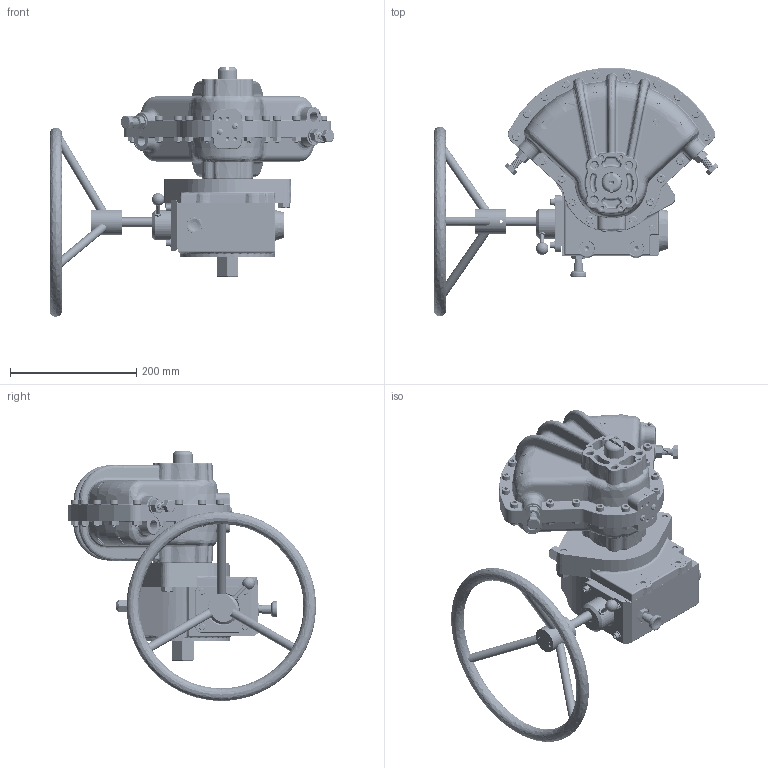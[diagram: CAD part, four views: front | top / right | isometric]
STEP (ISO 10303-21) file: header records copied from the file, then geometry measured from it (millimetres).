
FILE_DESCRIPTION( ( 'Unknown' ), '1' );
FILE_NAME( 'M:/Dallas-Ridec/Archive/30/Assemblies/Main assemblies/DA, Handwheel manual override assembly/D000000224.stp', 'Unknown', ( 'Unknown' ), ( 'Unknown' ), 'PSStep 17.0.49', 'Unknown', ' ' );
FILE_SCHEMA( ( 'AUTOMOTIVE_DESIGN { 1 0 10303 214 1 1 1 1 }' ) );
Length unit declared in the file: millimetre
Products named in the file (89): 191S000000005; 700SIK0000100; 170S240000000; 11SZ120776C00; 22SX007760C00; 6.2799.600; A0158712000A4; DEV0432; DEV0435; LNM12x1.5SS; 62SZ100000010; D0093806040A4; D0043906000A4; D0031906000KU; D0760312000CU; 21S5Z10000000; D0799112035A4; 47S0125004700; ILGD600A17; 164S202700000; D0093312035A4; 7251500210300; D0012506000A4; D0091206020A4; D0000710020ST; 9530300-C; 93635A544; 94150A360; 94150A355; 1; 2; 90116A246; 3; 4; 5; 6; 94205A240; 92015A539; 7; 91292A151
Bounding box: 451.24 x 392.83 x 395.65 mm (x, y, z)
Surface area: 641185.5 mm2 (no closed solid volume)
Topology: 0 solids, 3054 shells, 3054 faces, 21867 edges, 21414 vertices
Faces by surface type: plane 764, bspline 715, cone 702, cylinder 404, torus 310, sphere 111, extrusion 44, revolution 4
Full cylindrical faces by diameter (mm): 4.134 x18, 4.917 x2, 5 x2, 6 x1, 10 x7, 10.106 x2, 10.52 x20, 10.584 x18, 12 x27, 13 x18, 14 x3, 14.5 x1, 15 x1, 15.281 x2, 16 x2, 21 x1, 23.67 x2, 24 x2, 25 x1, 26 x2, 27 x2, 30 x1, 31.29 x1, 31.7 x1, 36 x2, 40 x1, 48 x1, 60 x1
Entity records: 394392 total; most frequent: CARTESIAN_POINT 251496, VERTEX_POINT 21283, ORIENTED_EDGE 21268, EDGE_CURVE 21268, DIRECTION 17720, AXIS2_PLACEMENT_3D 7486, CIRCLE 5019, B_SPLINE_CURVE_WITH_KNOTS 5006
